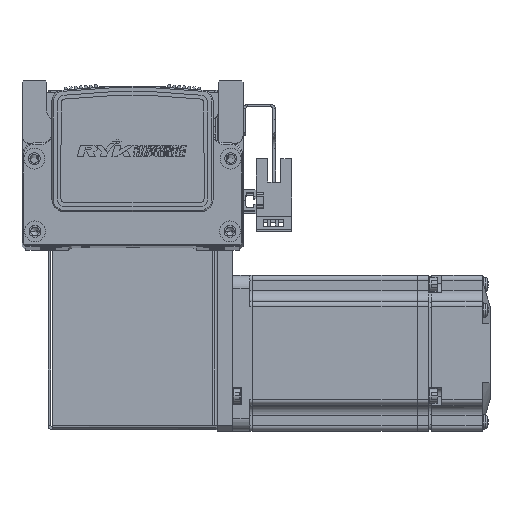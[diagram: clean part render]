
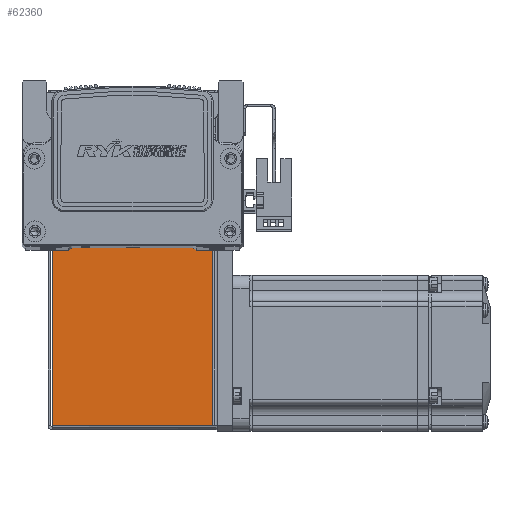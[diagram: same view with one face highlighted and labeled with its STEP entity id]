
A CAD part, top view. The second image highlights one B-rep face of the part: STEP entity #62360.
In plain terms, the highlighted planar face has unit normal (0, 0, 1).
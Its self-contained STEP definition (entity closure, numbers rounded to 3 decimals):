
#4766 = DIRECTION ( 'NONE',  ( 0., 1., 0. ) ) ;
#4780 = CARTESIAN_POINT ( 'NONE',  ( 0., 72.5, 35. ) ) ;
#4794 = CARTESIAN_POINT ( 'NONE',  ( -30.793, 0., 35. ) ) ;
#4801 = DIRECTION ( 'NONE',  ( -1., 0., 0. ) ) ;
#4846 = CARTESIAN_POINT ( 'NONE',  ( -32.5, 0.737, 35. ) ) ;
#4847 = DIRECTION ( 'NONE',  ( -1., 0., 0. ) ) ;
#5006 = CARTESIAN_POINT ( 'NONE',  ( 30.763, 0.737, 35. ) ) ;
#5013 = DIRECTION ( 'NONE',  ( 0., 1., 0. ) ) ;
#11180 = ORIENTED_EDGE ( 'NONE', *, *, #59136, .F. ) ;
#11348 = ORIENTED_EDGE ( 'NONE', *, *, #59122, .F. ) ;
#15711 = VECTOR ( 'NONE', #4847, 1000. ) ;
#15718 = LINE ( 'NONE', #4846, #15711 ) ;
#15730 = VECTOR ( 'NONE', #4801, 1000. ) ;
#15735 = VECTOR ( 'NONE', #4766, 1000. ) ;
#15762 = LINE ( 'NONE', #4794, #15735 ) ;
#15768 = LINE ( 'NONE', #4780, #15730 ) ;
#15881 = VECTOR ( 'NONE', #5013, 1000. ) ;
#15890 = LINE ( 'NONE', #5006, #15881 ) ;
#17612 = CARTESIAN_POINT ( 'NONE',  ( -30.793, 0.737, 35. ) ) ;
#20076 = CARTESIAN_POINT ( 'NONE',  ( -30.793, 72.5, 35. ) ) ;
#20476 = CARTESIAN_POINT ( 'NONE',  ( 30.763, 72.5, 35. ) ) ;
#20537 = CARTESIAN_POINT ( 'NONE',  ( 30.763, 0.737, 35. ) ) ;
#44449 = PLANE ( 'NONE',  #67152 ) ;
#44495 = DIRECTION ( 'NONE',  ( 0., 0., -1. ) ) ;
#44497 = DIRECTION ( 'NONE',  ( -1., 0., 0. ) ) ;
#44550 = CARTESIAN_POINT ( 'NONE',  ( 0., 0., 35. ) ) ;
#50951 = ORIENTED_EDGE ( 'NONE', *, *, #59121, .T. ) ;
#58900 = ORIENTED_EDGE ( 'NONE', *, *, #59215, .T. ) ;
#59121 = EDGE_CURVE ( 'NONE', #60884, #60840, #15768, .T. ) ;
#59122 = EDGE_CURVE ( 'NONE', #60930, #60840, #15762, .T. ) ;
#59136 = EDGE_CURVE ( 'NONE', #60907, #60930, #15718, .T. ) ;
#59215 = EDGE_CURVE ( 'NONE', #60907, #60884, #15890, .T. ) ;
#60840 = VERTEX_POINT ( 'NONE', #20076 ) ;
#60884 = VERTEX_POINT ( 'NONE', #20476 ) ;
#60907 = VERTEX_POINT ( 'NONE', #20537 ) ;
#60930 = VERTEX_POINT ( 'NONE', #17612 ) ;
#62360 = ADVANCED_FACE ( 'NONE', ( #75044 ), #44449, .F. ) ;
#67152 = AXIS2_PLACEMENT_3D ( 'NONE', #44550, #44495, #44497 ) ;
#69564 = EDGE_LOOP ( 'NONE', ( #58900, #50951, #11348, #11180 ) ) ;
#75044 = FACE_OUTER_BOUND ( 'NONE', #69564, .T. ) ;
